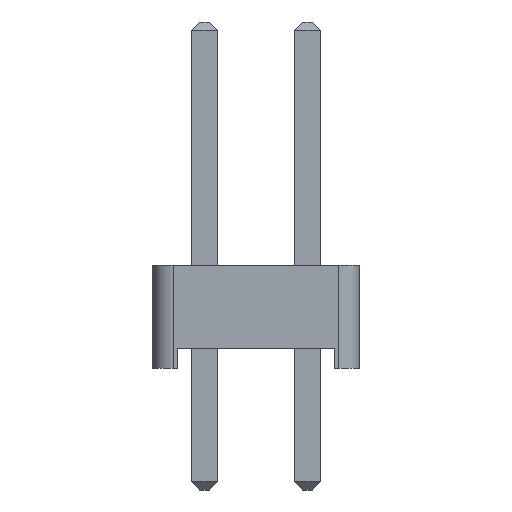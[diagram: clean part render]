
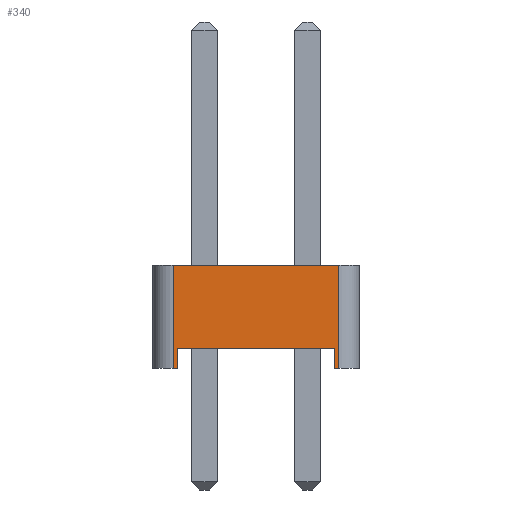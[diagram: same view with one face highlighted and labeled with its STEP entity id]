
A CAD part, left-side view. The second image highlights one B-rep face of the part: STEP entity #340.
In plain terms, the highlighted planar face has unit normal (-1, 0, 0).
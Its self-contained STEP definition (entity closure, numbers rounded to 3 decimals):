
#80 = VERTEX_POINT('',#81);
#81 = CARTESIAN_POINT('',(-1.27,2.04,0.));
#89 = PLANE('',#90);
#90 = AXIS2_PLACEMENT_3D('',#91,#92,#93);
#91 = CARTESIAN_POINT('',(0.,0.,0.));
#92 = DIRECTION('',(-0.,-0.,-1.));
#93 = DIRECTION('',(-1.,0.,0.));
#105 = CYLINDRICAL_SURFACE('',#106,0.5);
#106 = AXIS2_PLACEMENT_3D('',#107,#108,#109);
#107 = CARTESIAN_POINT('',(-0.77,2.04,0.));
#108 = DIRECTION('',(0.,0.,1.));
#109 = DIRECTION('',(0.,1.,0.));
#207 = VERTEX_POINT('',#208);
#208 = CARTESIAN_POINT('',(-1.27,1.94,0.));
#222 = PLANE('',#223);
#223 = AXIS2_PLACEMENT_3D('',#224,#225,#226);
#224 = CARTESIAN_POINT('',(1.27,1.94,0.));
#225 = DIRECTION('',(0.,-1.,0.));
#226 = DIRECTION('',(-1.,0.,0.));
#234 = EDGE_CURVE('',#207,#80,#235,.T.);
#235 = SURFACE_CURVE('',#236,(#240,#247),.PCURVE_S1.);
#236 = LINE('',#237,#238);
#237 = CARTESIAN_POINT('',(-1.27,-2.54,0.));
#238 = VECTOR('',#239,1.);
#239 = DIRECTION('',(0.,1.,0.));
#240 = PCURVE('',#89,#241);
#241 = DEFINITIONAL_REPRESENTATION('',(#242),#246);
#242 = LINE('',#243,#244);
#243 = CARTESIAN_POINT('',(1.27,-2.54));
#244 = VECTOR('',#245,1.);
#245 = DIRECTION('',(0.,1.));
#246 = ( GEOMETRIC_REPRESENTATION_CONTEXT(2) 
PARAMETRIC_REPRESENTATION_CONTEXT() REPRESENTATION_CONTEXT('2D SPACE',''
  ) );
#247 = PCURVE('',#248,#253);
#248 = PLANE('',#249);
#249 = AXIS2_PLACEMENT_3D('',#250,#251,#252);
#250 = CARTESIAN_POINT('',(-1.27,-2.54,0.));
#251 = DIRECTION('',(-1.,0.,0.));
#252 = DIRECTION('',(0.,1.,0.));
#253 = DEFINITIONAL_REPRESENTATION('',(#254),#258);
#254 = LINE('',#255,#256);
#255 = CARTESIAN_POINT('',(0.,0.));
#256 = VECTOR('',#257,1.);
#257 = DIRECTION('',(1.,0.));
#258 = ( GEOMETRIC_REPRESENTATION_CONTEXT(2) 
PARAMETRIC_REPRESENTATION_CONTEXT() REPRESENTATION_CONTEXT('2D SPACE',''
  ) );
#264 = EDGE_CURVE('',#80,#265,#267,.T.);
#265 = VERTEX_POINT('',#266);
#266 = CARTESIAN_POINT('',(-1.27,2.04,2.54));
#267 = SURFACE_CURVE('',#268,(#272,#279),.PCURVE_S1.);
#268 = LINE('',#269,#270);
#269 = CARTESIAN_POINT('',(-1.27,2.04,0.));
#270 = VECTOR('',#271,1.);
#271 = DIRECTION('',(0.,0.,1.));
#272 = PCURVE('',#105,#273);
#273 = DEFINITIONAL_REPRESENTATION('',(#274),#278);
#274 = LINE('',#275,#276);
#275 = CARTESIAN_POINT('',(1.571,0.));
#276 = VECTOR('',#277,1.);
#277 = DIRECTION('',(0.,1.));
#278 = ( GEOMETRIC_REPRESENTATION_CONTEXT(2) 
PARAMETRIC_REPRESENTATION_CONTEXT() REPRESENTATION_CONTEXT('2D SPACE',''
  ) );
#279 = PCURVE('',#248,#280);
#280 = DEFINITIONAL_REPRESENTATION('',(#281),#285);
#281 = LINE('',#282,#283);
#282 = CARTESIAN_POINT('',(4.58,0.));
#283 = VECTOR('',#284,1.);
#284 = DIRECTION('',(0.,-1.));
#285 = ( GEOMETRIC_REPRESENTATION_CONTEXT(2) 
PARAMETRIC_REPRESENTATION_CONTEXT() REPRESENTATION_CONTEXT('2D SPACE',''
  ) );
#304 = PLANE('',#305);
#305 = AXIS2_PLACEMENT_3D('',#306,#307,#308);
#306 = CARTESIAN_POINT('',(0.,0.,2.54));
#307 = DIRECTION('',(-0.,-0.,-1.));
#308 = DIRECTION('',(-1.,0.,0.));
#340 = ADVANCED_FACE('',(#341),#248,.T.);
#341 = FACE_BOUND('',#342,.T.);
#342 = EDGE_LOOP('',(#343,#373,#401,#422,#423,#424,#447,#475));
#343 = ORIENTED_EDGE('',*,*,#344,.F.);
#344 = EDGE_CURVE('',#345,#347,#349,.T.);
#345 = VERTEX_POINT('',#346);
#346 = CARTESIAN_POINT('',(-1.27,-2.04,0.));
#347 = VERTEX_POINT('',#348);
#348 = CARTESIAN_POINT('',(-1.27,-1.94,0.));
#349 = SURFACE_CURVE('',#350,(#354,#361),.PCURVE_S1.);
#350 = LINE('',#351,#352);
#351 = CARTESIAN_POINT('',(-1.27,-2.54,0.));
#352 = VECTOR('',#353,1.);
#353 = DIRECTION('',(0.,1.,0.));
#354 = PCURVE('',#248,#355);
#355 = DEFINITIONAL_REPRESENTATION('',(#356),#360);
#356 = LINE('',#357,#358);
#357 = CARTESIAN_POINT('',(0.,0.));
#358 = VECTOR('',#359,1.);
#359 = DIRECTION('',(1.,0.));
#360 = ( GEOMETRIC_REPRESENTATION_CONTEXT(2) 
PARAMETRIC_REPRESENTATION_CONTEXT() REPRESENTATION_CONTEXT('2D SPACE',''
  ) );
#361 = PCURVE('',#362,#367);
#362 = PLANE('',#363);
#363 = AXIS2_PLACEMENT_3D('',#364,#365,#366);
#364 = CARTESIAN_POINT('',(0.,0.,0.));
#365 = DIRECTION('',(-0.,-0.,-1.));
#366 = DIRECTION('',(-1.,0.,0.));
#367 = DEFINITIONAL_REPRESENTATION('',(#368),#372);
#368 = LINE('',#369,#370);
#369 = CARTESIAN_POINT('',(1.27,-2.54));
#370 = VECTOR('',#371,1.);
#371 = DIRECTION('',(0.,1.));
#372 = ( GEOMETRIC_REPRESENTATION_CONTEXT(2) 
PARAMETRIC_REPRESENTATION_CONTEXT() REPRESENTATION_CONTEXT('2D SPACE',''
  ) );
#373 = ORIENTED_EDGE('',*,*,#374,.T.);
#374 = EDGE_CURVE('',#345,#375,#377,.T.);
#375 = VERTEX_POINT('',#376);
#376 = CARTESIAN_POINT('',(-1.27,-2.04,2.54));
#377 = SURFACE_CURVE('',#378,(#382,#389),.PCURVE_S1.);
#378 = LINE('',#379,#380);
#379 = CARTESIAN_POINT('',(-1.27,-2.04,0.));
#380 = VECTOR('',#381,1.);
#381 = DIRECTION('',(0.,0.,1.));
#382 = PCURVE('',#248,#383);
#383 = DEFINITIONAL_REPRESENTATION('',(#384),#388);
#384 = LINE('',#385,#386);
#385 = CARTESIAN_POINT('',(0.5,0.));
#386 = VECTOR('',#387,1.);
#387 = DIRECTION('',(0.,-1.));
#388 = ( GEOMETRIC_REPRESENTATION_CONTEXT(2) 
PARAMETRIC_REPRESENTATION_CONTEXT() REPRESENTATION_CONTEXT('2D SPACE',''
  ) );
#389 = PCURVE('',#390,#395);
#390 = CYLINDRICAL_SURFACE('',#391,0.5);
#391 = AXIS2_PLACEMENT_3D('',#392,#393,#394);
#392 = CARTESIAN_POINT('',(-0.77,-2.04,0.));
#393 = DIRECTION('',(0.,0.,1.));
#394 = DIRECTION('',(0.,-1.,0.));
#395 = DEFINITIONAL_REPRESENTATION('',(#396),#400);
#396 = LINE('',#397,#398);
#397 = CARTESIAN_POINT('',(-1.571,0.));
#398 = VECTOR('',#399,1.);
#399 = DIRECTION('',(-0.,1.));
#400 = ( GEOMETRIC_REPRESENTATION_CONTEXT(2) 
PARAMETRIC_REPRESENTATION_CONTEXT() REPRESENTATION_CONTEXT('2D SPACE',''
  ) );
#401 = ORIENTED_EDGE('',*,*,#402,.T.);
#402 = EDGE_CURVE('',#375,#265,#403,.T.);
#403 = SURFACE_CURVE('',#404,(#408,#415),.PCURVE_S1.);
#404 = LINE('',#405,#406);
#405 = CARTESIAN_POINT('',(-1.27,-2.54,2.54));
#406 = VECTOR('',#407,1.);
#407 = DIRECTION('',(0.,1.,0.));
#408 = PCURVE('',#248,#409);
#409 = DEFINITIONAL_REPRESENTATION('',(#410),#414);
#410 = LINE('',#411,#412);
#411 = CARTESIAN_POINT('',(0.,-2.54));
#412 = VECTOR('',#413,1.);
#413 = DIRECTION('',(1.,0.));
#414 = ( GEOMETRIC_REPRESENTATION_CONTEXT(2) 
PARAMETRIC_REPRESENTATION_CONTEXT() REPRESENTATION_CONTEXT('2D SPACE',''
  ) );
#415 = PCURVE('',#304,#416);
#416 = DEFINITIONAL_REPRESENTATION('',(#417),#421);
#417 = LINE('',#418,#419);
#418 = CARTESIAN_POINT('',(1.27,-2.54));
#419 = VECTOR('',#420,1.);
#420 = DIRECTION('',(0.,1.));
#421 = ( GEOMETRIC_REPRESENTATION_CONTEXT(2) 
PARAMETRIC_REPRESENTATION_CONTEXT() REPRESENTATION_CONTEXT('2D SPACE',''
  ) );
#422 = ORIENTED_EDGE('',*,*,#264,.F.);
#423 = ORIENTED_EDGE('',*,*,#234,.F.);
#424 = ORIENTED_EDGE('',*,*,#425,.T.);
#425 = EDGE_CURVE('',#207,#426,#428,.T.);
#426 = VERTEX_POINT('',#427);
#427 = CARTESIAN_POINT('',(-1.27,1.94,0.5));
#428 = SURFACE_CURVE('',#429,(#433,#440),.PCURVE_S1.);
#429 = LINE('',#430,#431);
#430 = CARTESIAN_POINT('',(-1.27,1.94,0.));
#431 = VECTOR('',#432,1.);
#432 = DIRECTION('',(0.,0.,1.));
#433 = PCURVE('',#248,#434);
#434 = DEFINITIONAL_REPRESENTATION('',(#435),#439);
#435 = LINE('',#436,#437);
#436 = CARTESIAN_POINT('',(4.48,0.));
#437 = VECTOR('',#438,1.);
#438 = DIRECTION('',(0.,-1.));
#439 = ( GEOMETRIC_REPRESENTATION_CONTEXT(2) 
PARAMETRIC_REPRESENTATION_CONTEXT() REPRESENTATION_CONTEXT('2D SPACE',''
  ) );
#440 = PCURVE('',#222,#441);
#441 = DEFINITIONAL_REPRESENTATION('',(#442),#446);
#442 = LINE('',#443,#444);
#443 = CARTESIAN_POINT('',(2.54,0.));
#444 = VECTOR('',#445,1.);
#445 = DIRECTION('',(0.,-1.));
#446 = ( GEOMETRIC_REPRESENTATION_CONTEXT(2) 
PARAMETRIC_REPRESENTATION_CONTEXT() REPRESENTATION_CONTEXT('2D SPACE',''
  ) );
#447 = ORIENTED_EDGE('',*,*,#448,.T.);
#448 = EDGE_CURVE('',#426,#449,#451,.T.);
#449 = VERTEX_POINT('',#450);
#450 = CARTESIAN_POINT('',(-1.27,-1.94,0.5));
#451 = SURFACE_CURVE('',#452,(#456,#463),.PCURVE_S1.);
#452 = LINE('',#453,#454);
#453 = CARTESIAN_POINT('',(-1.27,1.94,0.5));
#454 = VECTOR('',#455,1.);
#455 = DIRECTION('',(0.,-1.,0.));
#456 = PCURVE('',#248,#457);
#457 = DEFINITIONAL_REPRESENTATION('',(#458),#462);
#458 = LINE('',#459,#460);
#459 = CARTESIAN_POINT('',(4.48,-0.5));
#460 = VECTOR('',#461,1.);
#461 = DIRECTION('',(-1.,0.));
#462 = ( GEOMETRIC_REPRESENTATION_CONTEXT(2) 
PARAMETRIC_REPRESENTATION_CONTEXT() REPRESENTATION_CONTEXT('2D SPACE',''
  ) );
#463 = PCURVE('',#464,#469);
#464 = PLANE('',#465);
#465 = AXIS2_PLACEMENT_3D('',#466,#467,#468);
#466 = CARTESIAN_POINT('',(0.,0.,0.5));
#467 = DIRECTION('',(0.,0.,1.));
#468 = DIRECTION('',(1.,0.,0.));
#469 = DEFINITIONAL_REPRESENTATION('',(#470),#474);
#470 = LINE('',#471,#472);
#471 = CARTESIAN_POINT('',(-1.27,1.94));
#472 = VECTOR('',#473,1.);
#473 = DIRECTION('',(0.,-1.));
#474 = ( GEOMETRIC_REPRESENTATION_CONTEXT(2) 
PARAMETRIC_REPRESENTATION_CONTEXT() REPRESENTATION_CONTEXT('2D SPACE',''
  ) );
#475 = ORIENTED_EDGE('',*,*,#476,.F.);
#476 = EDGE_CURVE('',#347,#449,#477,.T.);
#477 = SURFACE_CURVE('',#478,(#482,#489),.PCURVE_S1.);
#478 = LINE('',#479,#480);
#479 = CARTESIAN_POINT('',(-1.27,-1.94,0.));
#480 = VECTOR('',#481,1.);
#481 = DIRECTION('',(0.,0.,1.));
#482 = PCURVE('',#248,#483);
#483 = DEFINITIONAL_REPRESENTATION('',(#484),#488);
#484 = LINE('',#485,#486);
#485 = CARTESIAN_POINT('',(0.6,0.));
#486 = VECTOR('',#487,1.);
#487 = DIRECTION('',(0.,-1.));
#488 = ( GEOMETRIC_REPRESENTATION_CONTEXT(2) 
PARAMETRIC_REPRESENTATION_CONTEXT() REPRESENTATION_CONTEXT('2D SPACE',''
  ) );
#489 = PCURVE('',#490,#495);
#490 = PLANE('',#491);
#491 = AXIS2_PLACEMENT_3D('',#492,#493,#494);
#492 = CARTESIAN_POINT('',(-1.27,-1.94,0.));
#493 = DIRECTION('',(0.,1.,0.));
#494 = DIRECTION('',(1.,0.,0.));
#495 = DEFINITIONAL_REPRESENTATION('',(#496),#500);
#496 = LINE('',#497,#498);
#497 = CARTESIAN_POINT('',(0.,0.));
#498 = VECTOR('',#499,1.);
#499 = DIRECTION('',(0.,-1.));
#500 = ( GEOMETRIC_REPRESENTATION_CONTEXT(2) 
PARAMETRIC_REPRESENTATION_CONTEXT() REPRESENTATION_CONTEXT('2D SPACE',''
  ) );
